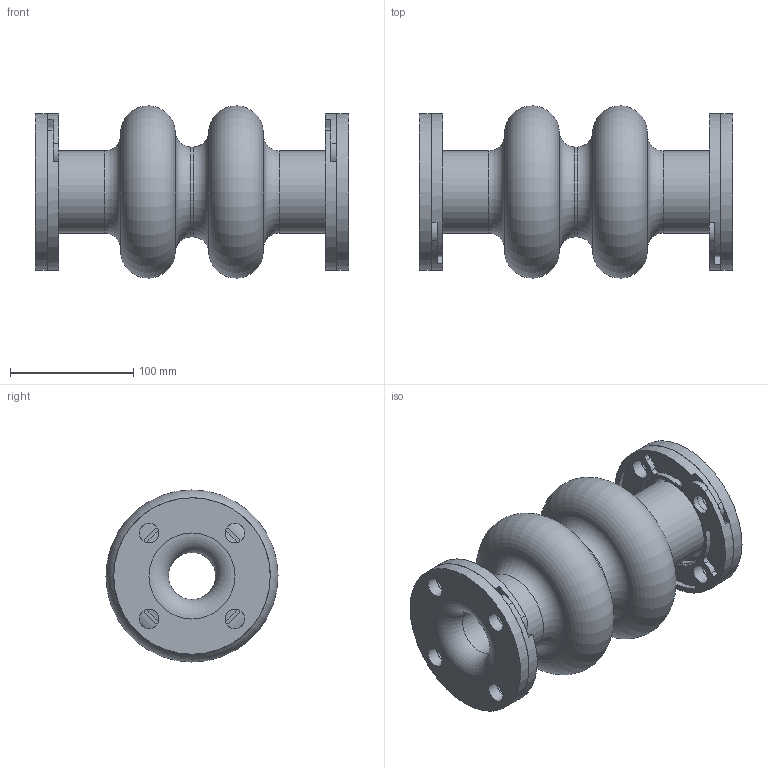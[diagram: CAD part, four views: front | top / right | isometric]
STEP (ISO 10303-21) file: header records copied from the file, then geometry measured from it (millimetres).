
FILE_DESCRIPTION(/* description */ (''),/* implementation_level */ '2;1');
FILE_NAME(/* name */ 'C:\001_Work\Designs\Mercer2014\MQInventor2014\RajR\500 Style\502\STP\502 1.5IDx10FF.stp',/* time_stamp */ '2016-03-16T13:48:22-04:00',/* author */ ('mquog'),/* organization */ (''),/* preprocessor_version */ 'ST-DEVELOPER v15.2',/* originating_system */ 'Autodesk Inventor 2014',/* authorisation */ '');
FILE_SCHEMA (('AUTOMOTIVE_DESIGN { 1 0 10303 214 3 1 1 }'));
Length unit declared in the file: centimetre
Products named in the file (1): 502 1.5IDx10FF
Bounding box: 254 x 139.62 x 139.62 mm (x, y, z)
Volume: 1452581.2 mm3; surface area: 262346.3 mm2
Topology: 3 solids, 3 shells, 188 faces, 488 edges, 312 vertices
Faces by surface type: cylinder 108, plane 52, torus 20, cone 8
Full cylindrical faces by diameter (mm): 15.875 x20, 38.1 x3, 66.675 x2, 73.025 x1, 127 x2
Entity records: 5992 total; most frequent: CARTESIAN_POINT 1101, DIRECTION 1058, ORIENTED_EDGE 872, AXIS2_PLACEMENT_3D 449, EDGE_CURVE 436, VERTEX_POINT 308, EDGE_LOOP 280, CIRCLE 260
